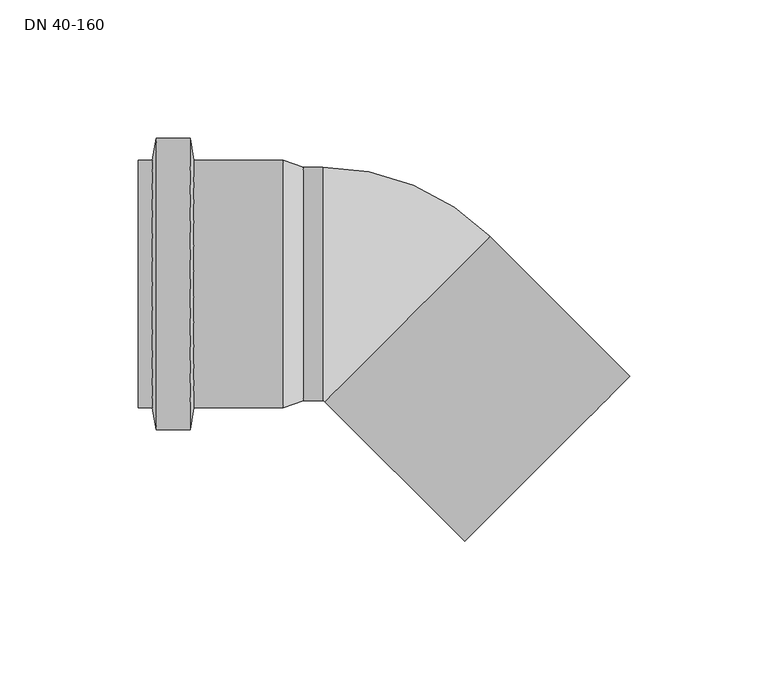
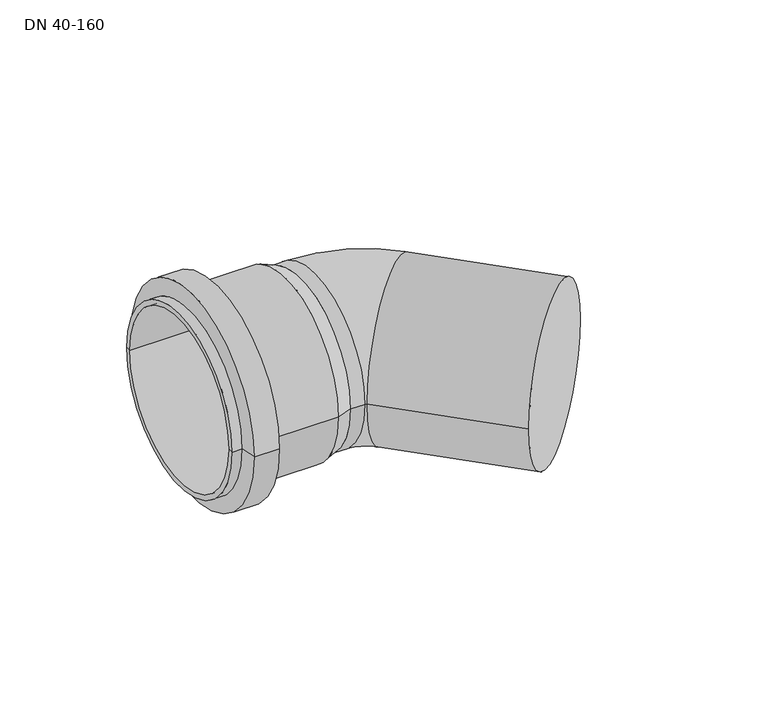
"""IFC4 building model written with IfcOpenShell, lengths in millimetres: pipe fitting geometry, ZZZ_Master 3+ kolano-sh_Pipelife : DN 40-160."""

import ifcopenshell
import ifcopenshell.guid

model = None  # the IFC model being written
_history = None  # IfcOwnerHistory: only IFC2X3 demands one
_inside = {}  # id of a spatial element -> (the spatial element, [elements in it])
_under = {}  # id of a project, library or spatial element -> (it, [spatial elements below it])
_declared = {}  # id of a project -> (the project, [libraries it declares])
_typed = {}  # id of a type object -> (the type object, [elements of that type])
_made_of = {}  # id of a material, layer set ... -> (it, [elements and type objects made of it])


def new_model(schema):
    """Start an empty IFC model of exactly this schema.

    Asked for "IFC4X3", IfcOpenShell would pick the latest addendum, in which some entities
    have other attributes; the version numbers below select the first issue.
    IFC2X3 requires an IfcOwnerHistory on every rooted entity: one is made here for all.
    """
    global model, _history
    if schema == "IFC4X3":
        model = ifcopenshell.file(schema_version=(4, 3, 0, 0))
    else:
        model = ifcopenshell.file(schema=schema)
    _inside.clear()
    _under.clear()
    _declared.clear()
    _typed.clear()
    _made_of.clear()
    _history = None
    if model.schema == "IFC2X3":
        org = make("IfcOrganization", Name="unknown")
        user = make(
            "IfcPersonAndOrganization",
            ThePerson=make("IfcPerson", FamilyName="unknown"),
            TheOrganization=org,
        )
        app = make(
            "IfcApplication",
            ApplicationDeveloper=org,
            Version="unknown",
            ApplicationFullName="unknown",
            ApplicationIdentifier="unknown",
        )
        _history = make(
            "IfcOwnerHistory",
            OwningUser=user,
            OwningApplication=app,
            ChangeAction="ADDED",
            CreationDate=0,
        )
    return model


def make(cls, **values):
    """One entity of the class cls with the attributes given. An attribute that is None is left unset."""
    return model.create_entity(
        cls, **{name: value for name, value in values.items() if value is not None}
    )


def rooted(cls, **values):
    """An entity with a GlobalId (a new one), such as an element, a storey or a relation."""
    return make(cls, GlobalId=ifcopenshell.guid.new(), OwnerHistory=_history, **values)


def si_unit(unit_type, name, prefix=None):
    """IfcSIUnit, for example si_unit("LENGTHUNIT", "METRE", prefix="MILLI")."""
    return make("IfcSIUnit", UnitType=unit_type, Prefix=prefix, Name=name)


def assignment(units):
    """IfcUnitAssignment: the units of a project."""
    return None if units is None else make("IfcUnitAssignment", Units=units)


def point(xyz):
    """IfcCartesianPoint."""
    return None if xyz is None else make("IfcCartesianPoint", Coordinates=xyz)


def direction(xyz):
    """IfcDirection."""
    return None if xyz is None else make("IfcDirection", DirectionRatios=xyz)


def frame(location, z_axis=None, x_axis=None):
    """IfcAxis2Placement3D, a coordinate frame: its origin and axes. An axis left out is left unset."""
    return make(
        "IfcAxis2Placement3D",
        Location=point(location),
        Axis=direction(z_axis),
        RefDirection=direction(x_axis),
    )


def origin():
    """The frame at (0, 0, 0) with its axes left unset."""
    return frame((0.0, 0.0, 0.0))


def place(relative_to, where):
    """IfcLocalPlacement: puts the frame where relative to a parent placement (None: the world)."""
    return make(
        "IfcLocalPlacement", PlacementRelTo=relative_to, RelativePlacement=where
    )


def context(
    kind, dimensions, precision=None, world=None, true_north=None, identifier=None
):
    """IfcGeometricRepresentationContext, for example the 3D "Model" context."""
    return make(
        "IfcGeometricRepresentationContext",
        ContextIdentifier=identifier,
        ContextType=kind,
        CoordinateSpaceDimension=dimensions,
        Precision=precision,
        WorldCoordinateSystem=world,
        TrueNorth=true_north,
    )


def project(units=None, contexts=None):
    """IfcProject with its units and contexts."""
    return rooted(
        "IfcProject",
        Name="project",
        RepresentationContexts=contexts,
        UnitsInContext=assignment(units),
    )


def spatial(cls, under=None, at=None, **own):
    """A site, building, storey or space (cls), placed at a placement, below another one or the project."""
    s = rooted(cls, ObjectPlacement=at, **own)
    if under is not None:
        _under.setdefault(under.id(), (under, []))[1].append(s)
    return s


def polyline(points):
    """IfcPolyline through the points."""
    return make("IfcPolyline", Points=[point(p) for p in points])


def circle_curve(where, radius):
    """IfcCircle in the frame where."""
    return make("IfcCircle", Position=where, Radius=radius)


def ellipse_curve(where, semi_axis1, semi_axis2):
    """IfcEllipse in the frame where."""
    return make(
        "IfcEllipse", Position=where, SemiAxis1=semi_axis1, SemiAxis2=semi_axis2
    )


def trimmed(basis, trim1, trim2, sense, master):
    """IfcTrimmedCurve: the piece of a basis curve between two trims."""
    return make(
        "IfcTrimmedCurve",
        BasisCurve=basis,
        Trim1=trim1,
        Trim2=trim2,
        SenseAgreement=sense,
        MasterRepresentation=master,
    )


def shape(context_of_items, identifier, shape_type, items):
    """IfcShapeRepresentation: the items that make up one representation, for example the "Body"."""
    return make(
        "IfcShapeRepresentation",
        ContextOfItems=context_of_items,
        RepresentationIdentifier=identifier,
        RepresentationType=shape_type,
        Items=items,
    )


def source(mapping_origin, context_of_items, identifier, shape_type, items):
    """IfcRepresentationMap: a shape defined once, which mapped items show again and again."""
    return make(
        "IfcRepresentationMap",
        MappingOrigin=mapping_origin,
        MappedRepresentation=shape(context_of_items, identifier, shape_type, items),
    )


def transform(
    local_origin,
    x_axis=None,
    y_axis=None,
    z_axis=None,
    scale=None,
    scale2=None,
    scale3=None,
    uniform=True,
):
    """IfcCartesianTransformationOperator3D, or its non-uniform kind. x_axis, y_axis, z_axis: its Axis1, 2, 3."""
    if uniform:
        return make(
            "IfcCartesianTransformationOperator3D",
            Axis1=direction(x_axis),
            Axis2=direction(y_axis),
            LocalOrigin=point(local_origin),
            Scale=scale,
            Axis3=direction(z_axis),
        )
    return make(
        "IfcCartesianTransformationOperator3DnonUniform",
        Axis1=direction(x_axis),
        Axis2=direction(y_axis),
        LocalOrigin=point(local_origin),
        Scale=scale,
        Axis3=direction(z_axis),
        Scale2=scale2,
        Scale3=scale3,
    )


def mapped(mapping_source, mapping_target):
    """IfcMappedItem: shows the shape of a source again, moved by a transform."""
    return make(
        "IfcMappedItem", MappingSource=mapping_source, MappingTarget=mapping_target
    )


def made_of(thing, what):
    """Note that an element or type object is made of a material, layer set ...; save() writes the relation."""
    if what is not None:
        _made_of.setdefault(what.id(), (what, []))[1].append(thing)
    return thing


def element(
    cls,
    number,
    at=None,
    inside=None,
    cuts=None,
    type_object=None,
    material=None,
    context=None,
    identifier="Body",
    shape_type=None,
    held_by="IfcProductDefinitionShape",
    body=None,
    shapes=None,
    **own,
):
    """One element of the class cls, such as IfcWall. Its Tag is "e" and its number.

    at: its placement. inside: the storey or other place that contains it. cuts: it is an
    opening in that element (IfcRelVoidsElement). A single representation is given by context,
    identifier, shape_type and body (its items); several are given by shapes. held_by: the class
    of the entity that holds the representations. save() writes the other relations.
    """
    e = rooted(cls, Tag="e%d" % number, ObjectPlacement=at, **own)
    if body is not None:
        shapes = [shape(context, identifier, shape_type, body)]
    if shapes is not None:
        e.Representation = make(held_by, Representations=shapes)
    if inside is not None:
        _inside.setdefault(inside.id(), (inside, []))[1].append(e)
    if cuts is not None:
        rooted(
            "IfcRelVoidsElement", RelatingBuildingElement=cuts, RelatedOpeningElement=e
        )
    if type_object is not None:
        _typed.setdefault(type_object.id(), (type_object, []))[1].append(e)
    return made_of(e, material)


def aggregate(whole, parts):
    """IfcRelAggregates: a whole, such as a stair, and the parts it consists of."""
    return rooted("IfcRelAggregates", RelatingObject=whole, RelatedObjects=parts)


def save(model, path):
    """Write the relations noted so far, then the file.

    IfcRelAggregates (storeys below a building ...), IfcRelContainedInSpatialStructure (elements
    in a storey), IfcRelDefinesByType, IfcRelAssociatesMaterial and IfcRelDeclares: one each for
    every whole, place, type object, material and project.
    """
    for whole, parts in _under.values():
        aggregate(whole, parts)
    for where, things in _inside.values():
        rooted(
            "IfcRelContainedInSpatialStructure",
            RelatedElements=things,
            RelatingStructure=where,
        )
    for kind, things in _typed.values():
        rooted("IfcRelDefinesByType", RelatedObjects=things, RelatingType=kind)
    for what, things in _made_of.values():
        rooted("IfcRelAssociatesMaterial", RelatedObjects=things, RelatingMaterial=what)
    for by, libraries in _declared.values():
        rooted("IfcRelDeclares", RelatingContext=by, RelatedDefinitions=libraries)
    model.write(path)


def plane_surface(at):
    """IfcPlane: the flat surface through the origin of the frame at, square to its z axis."""
    return make("IfcPlane", Position=at)


def cylinder_surface(at, radius):
    """IfcCylindricalSurface: all points at the distance radius from the z axis of the frame at."""
    return make("IfcCylindricalSurface", Position=at, Radius=radius)


def revolved_surface(curve, axis_point, axis_direction):
    """IfcSurfaceOfRevolution: the curve turned about the line through axis_point along axis_direction."""
    return make(
        "IfcSurfaceOfRevolution",
        SweptCurve=make("IfcArbitraryOpenProfileDef", ProfileType="CURVE", Curve=curve),
        AxisPosition=make("IfcAxis1Placement", Location=point(axis_point), Axis=direction(axis_direction)),
    )


def advanced_brep(points, edges, surfaces, faces):
    """IfcAdvancedBrep: a solid bounded by faces that lie on surfaces and meet in shared edges.

    An edge is (start, end): straight between two places in points (the first is 0);
    or (start, end, curve); or (start, end, curve, False) where it runs against its curve.
    A face is (place in surfaces, loops), or (place, loops, False) where it looks against
    its surface's normal. A loop lists edges by number (the first is 1), with a minus sign
    where the edge is run from its end to its start. The first loop is the outer one.
    """
    corners = [point(p) for p in points]
    vertices = [make("IfcVertexPoint", VertexGeometry=c) for c in corners]
    made = []
    for start, end, *more in edges:
        made.append(
            make(
                "IfcEdgeCurve",
                EdgeStart=vertices[start],
                EdgeEnd=vertices[end],
                EdgeGeometry=more[0] if more else make("IfcPolyline", Points=[corners[start], corners[end]]),
                SameSense=more[1] if len(more) > 1 else True,
            )
        )
    hull = []
    for where, loops, *sense in faces:
        bounds = []
        for j, loop in enumerate(loops):
            ring = [make("IfcOrientedEdge", EdgeElement=made[abs(k) - 1], Orientation=k > 0) for k in loop]
            bounds.append(
                make(
                    "IfcFaceOuterBound" if j == 0 else "IfcFaceBound",
                    Bound=make("IfcEdgeLoop", EdgeList=ring),
                    Orientation=True,
                )
            )
        hull.append(make("IfcAdvancedFace", Bounds=bounds, FaceSurface=surfaces[where], SameSense=sense[0] if sense else True))
    return make("IfcAdvancedBrep", Outer=make("IfcClosedShell", CfsFaces=hull))


def dn_40_160_1bd06ef7(model_context):
    return source(origin(), model_context, "Body", "AdvancedBrep", [
        advanced_brep(
        [(-25.0, 42.2, 0.0), (-84.6, 42.2, 0.0), (-84.6, -42.2, 0.0), (-25.0, -42.2, 0.0), (-32.1434413, 44.8, 0.0), (-32.1434413, -44.8, 0.0), (-64.5, 44.8, 0.0), (-64.5, -44.8, 0.0), (-65.888575, 52.675, 0.0), (-65.888575, -52.675, 0.0), (-78.111425, 52.675, 0.0), (-78.111425, -52.675, 0.0), (-79.5, 44.8, 0.0), (-79.5, -44.8, 0.0), (-84.6, 44.8, 0.0), (-84.6, -44.8, 0.0)],
        [
            (0, 1),
            (1, 2, circle_curve(frame((-84.6, 0.0, 0.0), z_axis=(-1.0, 0.0, 0.0), x_axis=(0.0, -1.0, 0.0)), 42.2)),
            (2, 3),
            (3, 0, circle_curve(frame((-25.0, 0.0, 0.0), z_axis=(1.0, 0.0, 0.0), x_axis=(0.0, -1.0, 0.0)), 42.2)),
            (2, 1, circle_curve(frame((-84.6, 0.0, 0.0), z_axis=(-1.0, 0.0, 0.0), x_axis=(0.0, -1.0, 0.0)), 42.2)),
            (0, 3, circle_curve(frame((-25.0, 0.0, 0.0), z_axis=(1.0, 0.0, 0.0), x_axis=(0.0, -1.0, 0.0)), 42.2)),
            (4, 0),
            (3, 5),
            (5, 4, circle_curve(frame((-32.1434413, 0.0, 0.0), z_axis=(1.0, 0.0, 0.0), x_axis=(0.0, -1.0, 0.0)), 44.8)),
            (4, 5, circle_curve(frame((-32.1434413, 0.0, 0.0), z_axis=(1.0, 0.0, 0.0), x_axis=(0.0, -1.0, 0.0)), 44.8)),
            (6, 4),
            (5, 7),
            (7, 6, circle_curve(frame((-64.5, 0.0, 0.0), z_axis=(1.0, 0.0, 0.0), x_axis=(0.0, -1.0, 0.0)), 44.8)),
            (6, 7, circle_curve(frame((-64.5, 0.0, 0.0), z_axis=(1.0, 0.0, 0.0), x_axis=(0.0, -1.0, 0.0)), 44.8)),
            (8, 6),
            (7, 9),
            (9, 8, circle_curve(frame((-65.888575, 0.0, 0.0), z_axis=(1.0, 0.0, 0.0), x_axis=(0.0, -1.0, 0.0)), 52.675)),
            (8, 9, circle_curve(frame((-65.888575, 0.0, 0.0), z_axis=(1.0, 0.0, 0.0), x_axis=(0.0, -1.0, 0.0)), 52.675)),
            (10, 8),
            (9, 11),
            (11, 10, circle_curve(frame((-78.111425, 0.0, 0.0), z_axis=(1.0, 0.0, 0.0), x_axis=(0.0, -1.0, 0.0)), 52.675)),
            (10, 11, circle_curve(frame((-78.111425, 0.0, 0.0), z_axis=(1.0, 0.0, 0.0), x_axis=(0.0, -1.0, 0.0)), 52.675)),
            (12, 10),
            (11, 13),
            (13, 12, circle_curve(frame((-79.5, 0.0, 0.0), z_axis=(1.0, 0.0, 0.0), x_axis=(0.0, -1.0, 0.0)), 44.8)),
            (12, 13, circle_curve(frame((-79.5, 0.0, 0.0), z_axis=(1.0, 0.0, 0.0), x_axis=(0.0, -1.0, 0.0)), 44.8)),
            (14, 12),
            (13, 15),
            (15, 14, circle_curve(frame((-84.6, 0.0, 0.0), z_axis=(1.0, 0.0, 0.0), x_axis=(0.0, -1.0, 0.0)), 44.8)),
            (14, 15, circle_curve(frame((-84.6, 0.0, 0.0), z_axis=(1.0, 0.0, 0.0), x_axis=(0.0, -1.0, 0.0)), 44.8)),
            (1, 14),
            (15, 2),
        ],
        [
            revolved_surface(polyline([(-84.6, -42.2, 0.0), (-25.0, -42.2, 0.0)]), (-94.6, 0.0, 0.0), (-1.0, 0.0, 0.0)),
            revolved_surface(polyline([(-25.0, -42.2, 0.0), (-32.1434413, -44.8, 0.0)]), (-94.6, 0.0, 0.0), (-1.0, 0.0, 0.0)),
            cylinder_surface(frame((-94.6, 0.0, 0.0), z_axis=(-1.0, 0.0, 0.0), x_axis=(0.0, -1.0, 0.0)), 44.8),
            revolved_surface(polyline([(-64.5, -44.8, 0.0), (-65.888575, -52.675, 0.0)]), (-94.6, 0.0, 0.0), (-1.0, 0.0, 0.0)),
            cylinder_surface(frame((-94.6, 0.0, 0.0), z_axis=(-1.0, 0.0, 0.0), x_axis=(0.0, -1.0, 0.0)), 52.675),
            revolved_surface(polyline([(-78.111425, -52.675, 0.0), (-79.5, -44.8, 0.0)]), (-94.6, 0.0, 0.0), (-1.0, 0.0, 0.0)),
            plane_surface(frame((-84.6, 0.0, 0.0), z_axis=(-1.0, 0.0, 0.0), x_axis=(0.0, -1.0, 0.0))),
        ],
        [
            (0, [[1, 2, 3, 4]]),
            (0, [[-3, 5, -1, 6]]),
            (1, [[7, -4, 8, 9]]),
            (1, [[-8, -6, -7, 10]]),
            (2, [[11, -9, 12, 13]]),
            (2, [[-12, -10, -11, 14]]),
            (3, [[15, -13, 16, 17]]),
            (3, [[-16, -14, -15, 18]]),
            (4, [[19, -17, 20, 21]]),
            (4, [[-20, -18, -19, 22]]),
            (5, [[23, -21, 24, 25]]),
            (5, [[-24, -22, -23, 26]]),
            (2, [[27, -25, 28, 29]]),
            (2, [[-28, -26, -27, 30]]),
            (6, [[31, -29, 32, -2]]),
            (6, [[-32, -30, -31, -5]]),
        ],
    ),
        advanced_brep(
        [(-17.8940259, 42.2, 0.0), (-25.0, 42.2, 0.0), (-25.0, -42.2, 0.0), (-17.8940259, -42.2, 0.0), (-17.1869191, -42.4928932, 0.0), (42.4928932, 17.1869191, 0.0), (33.3754401, -93.0552524, 0.0), (63.2153462, -63.2153462, -42.2), (93.0552524, -33.3754401, 0.0), (63.2153462, -63.2153462, 42.2)],
        [
            (0, 1),
            (1, 2, circle_curve(frame((-25.0, 0.0, 0.0), z_axis=(1.0, 0.0, 0.0), x_axis=(0.0, -1.0, 0.0)), 42.2)),
            (2, 3),
            (3, 0, circle_curve(frame((-17.8940259, 0.0, 0.0), z_axis=(-1.0, 0.0, 0.0), x_axis=(0.0, -1.0, 0.0)), 42.2)),
            (2, 1, circle_curve(frame((-25.0, 0.0, 0.0), z_axis=(1.0, 0.0, 0.0), x_axis=(0.0, -1.0, 0.0)), 42.2)),
            (0, 3, circle_curve(frame((-17.8940259, 0.0, 0.0), z_axis=(-1.0, 0.0, 0.0), x_axis=(0.0, -1.0, 0.0)), 42.2)),
            (3, 4, circle_curve(frame((-17.8940259, -43.2, 0.0), z_axis=(0.0, 0.0, -1.0), x_axis=(0.0, 1.0, 0.0)), 1.0)),
            (4, 5, circle_curve(frame((12.6529871, -12.6529871, 0.0), z_axis=(-0.7071067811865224, 0.7071067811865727, 0.0), x_axis=(-0.7071067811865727, -0.7071067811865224, 0.0)), 42.2)),
            (5, 0, circle_curve(frame((-17.8940259, -43.2, 0.0), z_axis=(0.0, 0.0, 1.0), x_axis=(0.0, 1.0, 0.0)), 85.4)),
            (5, 4, circle_curve(frame((12.6529871, -12.6529871, 0.0), z_axis=(-0.7071067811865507, 0.7071067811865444, 0.0), x_axis=(-0.7071067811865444, -0.7071067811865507, 0.0)), 42.2)),
            (6, 7, circle_curve(frame((63.2153462, -63.2153462, 0.0), z_axis=(0.707106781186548, -0.707106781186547, 0.0), x_axis=(-0.707106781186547, -0.707106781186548, 0.0)), 42.2)),
            (7, 8, circle_curve(frame((63.2153462, -63.2153462, 0.0), z_axis=(0.707106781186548, -0.707106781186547, 0.0), x_axis=(-0.707106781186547, -0.707106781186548, 0.0)), 42.2)),
            (8, 9, circle_curve(frame((63.2153462, -63.2153462, 0.0), z_axis=(0.707106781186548, -0.707106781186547, 0.0), x_axis=(-0.707106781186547, -0.707106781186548, 0.0)), 42.2)),
            (9, 6, circle_curve(frame((63.2153462, -63.2153462, 0.0), z_axis=(0.707106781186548, -0.707106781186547, 0.0), x_axis=(-0.707106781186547, -0.707106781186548, 0.0)), 42.2)),
            (4, 6),
            (8, 5),
        ],
        [
            cylinder_surface(frame((-84.6, 0.0, 0.0), z_axis=(-1.0, 0.0, 0.0), x_axis=(0.0, -1.0, 0.0)), 42.2),
            revolved_surface(trimmed(ellipse_curve(frame((-17.8940259, 0.0, 0.0), z_axis=(1.0, 0.0, 0.0), x_axis=(0.0, -1.0, 0.0)), 42.2, 42.2), [point((-17.8940259, 42.2, 0.0))], [point((-17.8940259, -42.2, 0.0))], True, "CARTESIAN"), (-17.8940259, -43.2, 0.0), (0.0, 0.0, 1.0)),
            revolved_surface(trimmed(ellipse_curve(frame((-17.8940259, 0.0, 0.0), z_axis=(1.0, 0.0, 0.0), x_axis=(0.0, -1.0, 0.0)), 42.2, 42.2), [point((-17.8940259, -42.2, 0.0))], [point((-17.8940259, 42.2, 0.0))], True, "CARTESIAN"), (-17.8940259, -43.2, 0.0), (0.0, 0.0, 1.0)),
            plane_surface(frame((63.2153462, -63.2153462, 0.0), z_axis=(0.707106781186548, -0.707106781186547, 0.0), x_axis=(0.0, 0.0, 1.0))),
            cylinder_surface(frame((12.6529871, -12.6529871, 0.0), z_axis=(-0.707106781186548, 0.707106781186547, 0.0), x_axis=(-0.707106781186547, -0.707106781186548, 0.0)), 42.2),
            plane_surface(frame((-25.0, -42.2, 0.0), z_axis=(-1.0, 0.0, 0.0), x_axis=(0.0, 0.0, 1.0))),
        ],
        [
            (0, [[1, 2, 3, 4]]),
            (0, [[-3, 5, -1, 6]]),
            (1, [[7, 8, 9, -4]]),
            (2, [[-9, 10, -7, -6]]),
            (3, [[11, 12, 13, 14]]),
            (4, [[15, -14, -13, 16, -8]]),
            (4, [[-16, -12, -11, -15, -10]]),
            (5, [[-5, -2]]),
        ],
    ),
    ])


if __name__ == "__main__":
    model = new_model("IFC4")
    model_context = context("Model", 3, world=origin())
    ifc_project = project(units=[si_unit("LENGTHUNIT", "METRE", prefix="MILLI")], contexts=[model_context])
    site = spatial("IfcSite", under=ifc_project)
    building = spatial("IfcBuilding", under=site)
    placement = place(None, origin())
    dn_40_160_shape = dn_40_160_1bd06ef7(model_context)
    element("IfcPipeFitting", 1, ObjectType="ZZZ_Master 3+ kolano-sh_Pipelife : DN 40-160", at=placement, inside=building, context=model_context, shape_type="MappedRepresentation", body=[
        mapped(dn_40_160_shape, transform((0.0, 0.0, 0.0), x_axis=(1.0, 0.0, 0.0), y_axis=(0.0, 1.0, 0.0), z_axis=(0.0, 0.0, 1.0))),
    ])
    save(model, "model.ifc")
